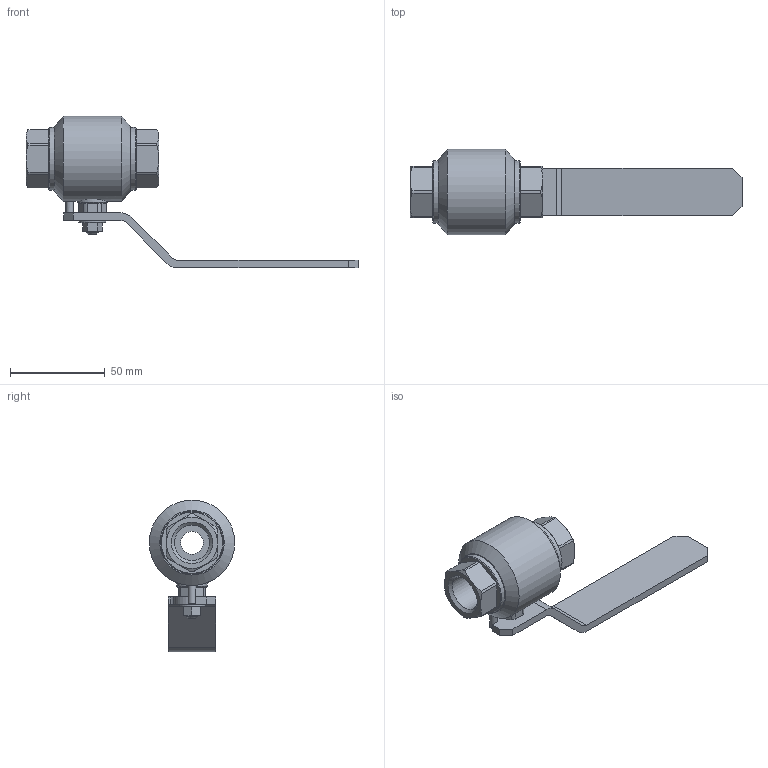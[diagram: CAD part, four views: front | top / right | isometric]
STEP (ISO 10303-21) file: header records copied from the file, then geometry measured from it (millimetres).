
FILE_DESCRIPTION(('STEP AP203'), '1');
FILE_NAME('ZARD 015.063.10.P.stp', '2013-12-05T09:12:12', ('Øèøêî'), ('Ýíåðïðåä ßðäîñ'), 'ASCON STEP Converter 1.3', 'Kompas 3D', '');
FILE_SCHEMA(('CONFIG_CONTROL_DESIGN','SUPPORT_RESOURCE_SCHEMA'));
Length unit declared in the file: millimetre
Products named in the file (1): 80
Bounding box: 175 x 45 x 80 mm (x, y, z)
Volume: 78049.9 mm3; surface area: 26830.6 mm2
Topology: 1 solids, 3 shells, 181 faces, 429 edges, 264 vertices
Faces by surface type: plane 97, cylinder 47, cone 36, bspline 1
Full cylindrical faces by diameter (mm): 4 x2, 6 x2, 8.673 x1, 9 x1, 10 x1, 10.1 x1, 12 x2, 14.2 x1, 15.8 x1, 16 x3, 18.6 x2, 25.4 x1, 27 x1, 33 x2, 45 x1
Entity records: 6821 total; most frequent: CARTESIAN_POINT 2517, DIRECTION 904, ORIENTED_EDGE 856, EDGE_CURVE 428, AXIS2_PLACEMENT_3D 344, VERTEX_POINT 264, LINE 216, VECTOR 216
